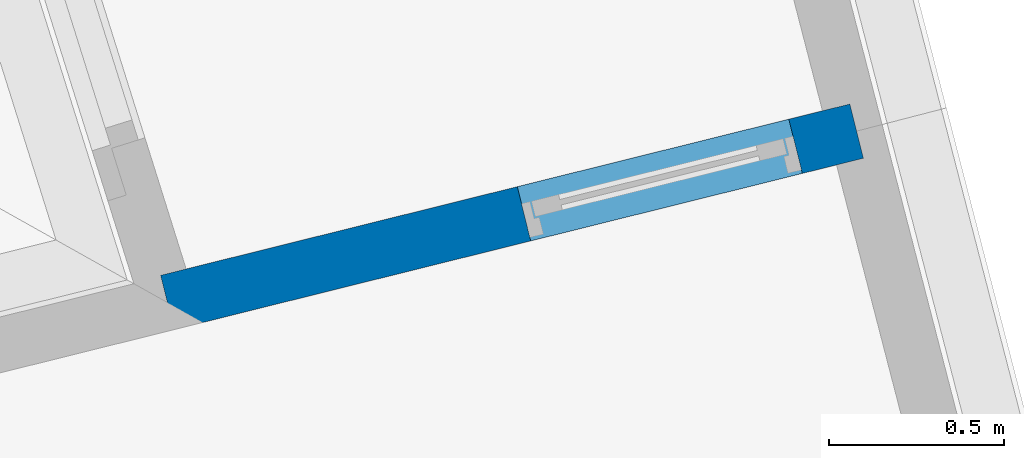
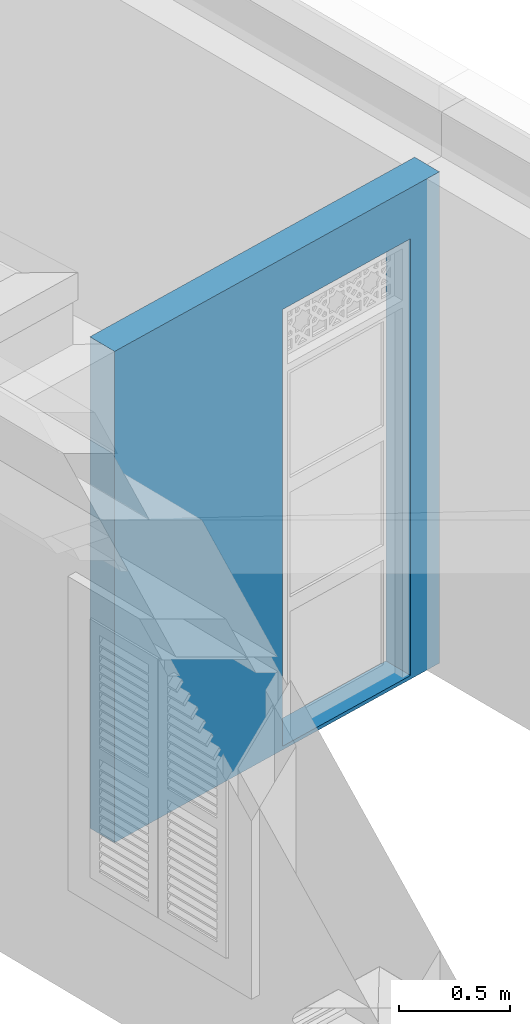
# One storey, part 4 of 13: 1 wall, 1 opening.
"""IFC4 building model written with IfcOpenShell, lengths in metres."""

from ifc_helpers import new_model, si_unit, frame, origin_with_axes, place, context, subcontext, project, spatial, polyline, outline, extrude, material, layer, layer_set, layer_usage, type_object, element, save


model = new_model("IFC4")

# Units and contexts
model_context = context("Model", 3, world=origin_with_axes())
body_context = subcontext(model_context, "Body", "Model", "MODEL_VIEW")
ifc_project = project(units=[si_unit("PLANEANGLEUNIT", "RADIAN"), si_unit("MASSUNIT", "GRAM", prefix="KILO"), si_unit("FORCEUNIT", "NEWTON", prefix="KILO"), si_unit("LENGTHUNIT", "METRE"), si_unit("AREAUNIT", "SQUARE_METRE"), si_unit("VOLUMEUNIT", "CUBIC_METRE")], contexts=[model_context, model_context])

# Site, building, storey
site_placement = place(None, origin_with_axes())
site = spatial("IfcSite", under=ifc_project, at=site_placement, Name="Site plot-0", CompositionType="ELEMENT")
building_placement = place(None, origin_with_axes())
building = spatial("IfcBuilding", under=site, at=building_placement, Name="Building plot-0", CompositionType="ELEMENT")
storey_placement = place(None, frame((0.0, 0.0, 3.6), z_axis=(0.0, 0.0, 1.0), x_axis=(1.0, 0.0, 0.0)))
storey = spatial("IfcBuildingStorey", under=building, at=storey_placement, Name="plot-0 1", CompositionType="ELEMENT", Elevation=3.6)

# Wall, opening
ifc_material = material(Name="Masonry")
ifc_layer = layer(ifc_material, 0.16, ventilated=False)
ifc_layer_set = layer_set([ifc_layer], Name="interior_0.08_0.08")
ifc_layer_usage = layer_usage(ifc_layer_set, "AXIS2", "POSITIVE", -0.08)
wall_type = type_object("IfcWallType", Name="interior_0.08_0.08", PredefinedType="SOLIDWALL", material=ifc_layer_set)
wall_placement = place(storey_placement, frame((7.44525118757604, 6.24690220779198, 0.0), z_axis=(0.0, 0.0, 1.0), x_axis=(0.97047200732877, 0.241213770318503, 0.0)))
wall = element("IfcWall", 1, at=wall_placement, inside=storey, type_object=wall_type, material=ifc_layer_usage, Name="interior", context=body_context, shape_type="SweptSolid", body=[
    extrude(outline(polyline([(-8.39192547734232e-17, 0.0800000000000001), (9.3716429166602e-17, -0.0800000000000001), (2.03091730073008, -0.0799999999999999), (2.03091730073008, 0.0799999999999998), (-8.39192547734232e-17, 0.0800000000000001)])), origin_with_axes(), (0.0, 0.0, 1.0), 2.7),
])
opening_placement = place(wall_placement, frame((1.05091730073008, 0.0, 0.02)))
element("IfcOpeningElement", 2, at=opening_placement, cuts=wall, Name="My Opening", ObjectType="Opening", context=body_context, shape_type="SweptSolid", body=[
    extrude(outline(polyline([(0.0, -0.100000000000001), (0.799999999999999, -0.1), (0.8, 1.1), (1.11022302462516e-15, 1.1), (0.0, -0.100000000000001)])), origin_with_axes(), (0.0, 0.0, 1.0), 2.4),
])

save(model, "model.ifc")
